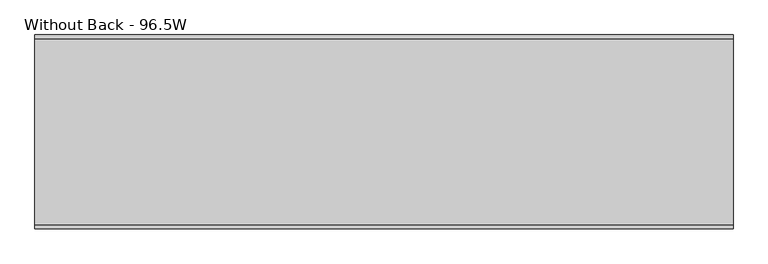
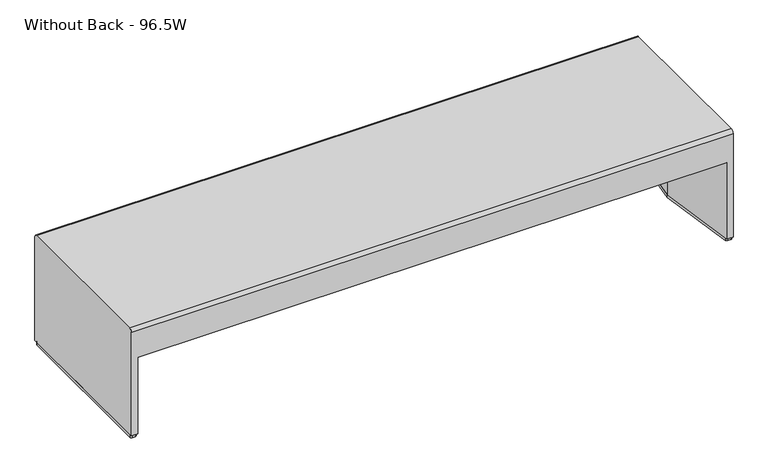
"""IFC4 building model written with IfcOpenShell, lengths in millimetres: furniture geometry, Steelcase Coalesse - Together- Seating - Bench - Straight : Without Back - 96.5W."""

from ifc_helpers import new_model, si_unit, point, frame, frame_2d, origin, origin_with_axes, place, context, project, spatial, polyline, circle_curve, trimmed, segment, composite_curve, outline, extrude, source, transform, mapped, element, save
from ifc_brep_helpers import plane_surface, cylinder_surface, advanced_brep


def without_back_96_5w_5c585f7c(model_context):
    return source(origin(), model_context, "Body", "SolidModel", [
        advanced_brep(
        [(550.9224085, 12.7, 471.2287949), (550.9224085, 0.0, 458.5287949), (550.9224085, 0.0, 12.7976677), (550.9224085, 680.4865973, 12.7976677), (550.9224085, 680.4865973, 458.5287949), (550.9224085, 667.7865973, 471.2287949), (-1900.1775915, 12.7, 471.2287949), (-1900.1775915, 667.7865973, 471.2287949), (-1900.1775915, 680.4865973, 458.5287949), (-1900.1775915, 680.4865973, 12.7976677), (-1900.1775915, 0.0, 12.7976677), (-1900.1775915, 0.0, 458.5287949), (-1874.0008116, 0.0, 12.7976677), (-1874.0008116, 0.0, 343.3718099), (524.7467103, 0.0, 343.3718099), (524.7456286, 0.0, 12.7976677), (-1829.6693111, 337.8527218, 343.3718099), (-1874.3078635, 680.4865973, 343.3718099), (525.0526806, 680.4865973, 343.3718099), (480.4141281, 337.8527218, 343.3718099), (525.0537419, 680.4865973, 12.7976677), (-1874.3089248, 680.4865973, 12.7976677), (-1829.6693111, 337.8527218, 12.7976677), (480.4141281, 337.8527218, 12.7976677)],
        [
            (0, 1, circle_curve(frame((550.9224085, 12.7, 458.5287949), z_axis=(1.0, 0.0, 0.0), x_axis=(0.0, 1.0, 0.0)), 12.7)),
            (1, 2),
            (2, 3),
            (3, 4),
            (4, 5, circle_curve(frame((550.9224085, 667.7865973, 458.5287949), z_axis=(1.0, 0.0, 0.0), x_axis=(0.0, 1.0, 0.0)), 12.7)),
            (5, 0),
            (6, 7),
            (7, 8, circle_curve(frame((-1900.1775915, 667.7865973, 458.5287949), z_axis=(-1.0, 0.0, 0.0), x_axis=(0.0, 1.0, 0.0)), 12.7)),
            (8, 9),
            (9, 10),
            (10, 11),
            (11, 6, circle_curve(frame((-1900.1775915, 12.7, 458.5287949), z_axis=(-1.0, 0.0, 0.0), x_axis=(0.0, 1.0, 0.0)), 12.7)),
            (0, 6),
            (11, 1),
            (10, 12),
            (12, 13),
            (13, 14),
            (14, 15),
            (15, 2),
            (16, 17),
            (17, 18),
            (18, 19),
            (19, 14),
            (13, 16),
            (3, 20),
            (20, 18),
            (17, 21),
            (21, 9),
            (8, 4),
            (7, 5),
            (22, 12),
            (21, 22),
            (16, 22),
            (23, 20),
            (15, 23),
            (19, 23),
        ],
        [
            plane_surface(frame((550.9224085, 25.4, 458.5287949), z_axis=(1.0, 0.0, 0.0), x_axis=(0.0, 0.0, 1.0))),
            plane_surface(frame((-1900.1775915, 25.4, 458.5287949), z_axis=(-1.0, 0.0, 0.0), x_axis=(0.0, 0.0, -1.0))),
            cylinder_surface(frame((-1900.1775915, 12.7, 458.5287949), z_axis=(1.0, 0.0, 0.0), x_axis=(0.0, 1.0, 0.0)), 12.7),
            plane_surface(frame((550.9224085, 0.0, 458.5287949), z_axis=(0.0, -1.0, 0.0), x_axis=(-1.0, 0.0, 0.0))),
            plane_surface(frame((550.9224085, 0.0, 343.3718099), z_axis=(0.0, 0.0, -1.0), x_axis=(-1.0, 0.0, 0.0))),
            plane_surface(frame((550.9224085, 680.4865973, 343.3718099), z_axis=(0.0, 1.0, 0.0), x_axis=(-1.0, 0.0, 0.0))),
            cylinder_surface(frame((-1900.1775915, 667.7865973, 458.5287949), z_axis=(1.0, 0.0, 0.0), x_axis=(0.0, 1.0, 0.0)), 12.7),
            plane_surface(frame((550.9224085, 667.7865973, 471.2287949), z_axis=(0.0, 0.0, 1.0), x_axis=(-1.0, 0.0, 0.0))),
            plane_surface(frame((-1874.3089248, 680.4947435, 12.7976677), z_axis=(0.0, 0.0, -1.0), x_axis=(0.1291888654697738, -0.9916200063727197, 0.0))),
            plane_surface(frame((-1829.6693111, 337.8527218, 343.3718099), z_axis=(0.9916200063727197, 0.1291888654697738, 0.0), x_axis=(0.0, 0.0, -1.0))),
            plane_surface(frame((-1874.0008116, 0.0082432, 343.3718099), z_axis=(0.9915004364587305, -0.13010336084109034, 0.0), x_axis=(0.0, 0.0, -1.0))),
            plane_surface(frame((480.4141281, 337.8527218, 12.7976677), z_axis=(0.0, 0.0, -1.0), x_axis=(-0.13010336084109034, 0.9915004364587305, 0.0))),
            plane_surface(frame((480.4141281, 337.8527218, 343.3718099), z_axis=(-0.9915004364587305, -0.13010336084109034, 0.0), x_axis=(0.0, 0.0, -1.0))),
            plane_surface(frame((525.0537419, 680.4947435, 343.3718099), z_axis=(-0.9916200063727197, 0.12918886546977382, 0.0), x_axis=(0.0, 0.0, -1.0))),
        ],
        [
            (0, [[1, 2, 3, 4, 5, 6]]),
            (1, [[7, 8, 9, 10, 11, 12]]),
            (2, [[-1, 13, -12, 14]]),
            (3, [[-2, -14, -11, 15, 16, 17, 18, 19]]),
            (4, [[20, 21, 22, 23, -17, 24]]),
            (5, [[-4, 25, 26, -21, 27, 28, -9, 29]]),
            (6, [[-5, -29, -8, 30]]),
            (7, [[-6, -30, -7, -13]]),
            (8, [[31, -15, -10, -28, 32]]),
            (9, [[-32, -27, -20, 33]]),
            (10, [[-31, -33, -24, -16]]),
            (11, [[34, -25, -3, -19, 35]]),
            (12, [[-35, -18, -23, 36]]),
            (13, [[-34, -36, -22, -26]]),
        ],
    ),
        extrude(outline(composite_curve([segment(polyline([(-1830.1253033, 342.7173042), (-1875.1256906, 11.5995062)]), True, "CONTINUOUS"), segment(trimmed(circle_curve(frame_2d((-1881.4178483, 12.4546385)), 6.35), [point((-1875.1256906, 11.5995062))], [point((-1881.4230349, 6.1046406))], False, "CARTESIAN"), True, "CONTINUOUS"), segment(polyline([(-1881.4230349, 6.1046406), (-1893.8802997, 6.1148157)]), True, "CONTINUOUS"), segment(trimmed(circle_curve(frame_2d((-1893.8751131, 12.4648135)), 6.35), [point((-1893.8802997, 6.1148157))], [point((-1900.225111, 12.4700002))], False, "CARTESIAN"), True, "CONTINUOUS"), segment(polyline([(-1900.225111, 12.4700002), (-1899.6895947, 668.1010803)]), True, "CONTINUOUS"), segment(trimmed(circle_curve(frame_2d((-1893.3395969, 668.0958937)), 6.35), [point((-1899.6895947, 668.1010803))], [point((-1893.3344102, 674.4458915))], False, "CARTESIAN"), True, "CONTINUOUS"), segment(polyline([(-1893.3344102, 674.4458915), (-1880.8113928, 674.4356628)]), True, "CONTINUOUS"), segment(trimmed(circle_curve(frame_2d((-1880.8171357, 667.4047129)), 7.0309522), [point((-1880.8113928, 674.4356628))], [point((-1873.8487233, 668.3404046))], False, "CARTESIAN"), True, "CONTINUOUS"), segment(polyline([(-1873.8487233, 668.3404046), (-1830.1253033, 342.7173042)]), True, "CONTINUOUS")], self_intersect=False)), origin_with_axes(), (0.0, 0.0, 1.0), 12.7976677),
        extrude(outline(composite_curve([segment(polyline([(480.8701204, 342.7173042), (524.5935403, 668.3404046)]), True, "CONTINUOUS"), segment(trimmed(circle_curve(frame_2d((531.5619527, 667.4047129)), 7.0309522), [point((524.5935403, 668.3404046))], [point((531.5562098, 674.4356628))], False, "CARTESIAN"), True, "CONTINUOUS"), segment(polyline([(531.5562098, 674.4356628), (544.0792272, 674.4458915)]), True, "CONTINUOUS"), segment(trimmed(circle_curve(frame_2d((544.0844139, 668.0958937)), 6.35), [point((544.0792272, 674.4458915))], [point((550.4344118, 668.1010803))], False, "CARTESIAN"), True, "CONTINUOUS"), segment(polyline([(550.4344118, 668.1010803), (550.969928, 12.4700002)]), True, "CONTINUOUS"), segment(trimmed(circle_curve(frame_2d((544.6199301, 12.4648135)), 6.35), [point((550.969928, 12.4700002))], [point((544.6251168, 6.1148157))], False, "CARTESIAN"), True, "CONTINUOUS"), segment(polyline([(544.6251168, 6.1148157), (532.167852, 6.1046406)]), True, "CONTINUOUS"), segment(trimmed(circle_curve(frame_2d((532.1626653, 12.4546385)), 6.35), [point((532.167852, 6.1046406))], [point((525.8705076, 11.5995062))], False, "CARTESIAN"), True, "CONTINUOUS"), segment(polyline([(525.8705076, 11.5995062), (480.8701204, 342.7173042)]), True, "CONTINUOUS")], self_intersect=False)), origin_with_axes(), (0.0, 0.0, 1.0), 12.7976677),
    ])


if __name__ == "__main__":
    model = new_model("IFC4")
    model_context = context("Model", 3, world=origin())
    ifc_project = project(units=[si_unit("LENGTHUNIT", "METRE", prefix="MILLI")], contexts=[model_context])
    site = spatial("IfcSite", under=ifc_project)
    building = spatial("IfcBuilding", under=site)
    placement = place(None, origin())
    without_back_96_5w_shape = without_back_96_5w_5c585f7c(model_context)
    element("IfcFurniture", 1, ObjectType="Steelcase Coalesse - Together- Seating - Bench - Straight : Without Back - 96.5W", at=placement, inside=building, context=model_context, shape_type="MappedRepresentation", body=[
        mapped(without_back_96_5w_shape, transform((0.0, 0.0, 0.0), x_axis=(1.0, 0.0, 0.0), y_axis=(0.0, 1.0, 0.0), z_axis=(0.0, 0.0, 1.0))),
    ])
    save(model, "model.ifc")
